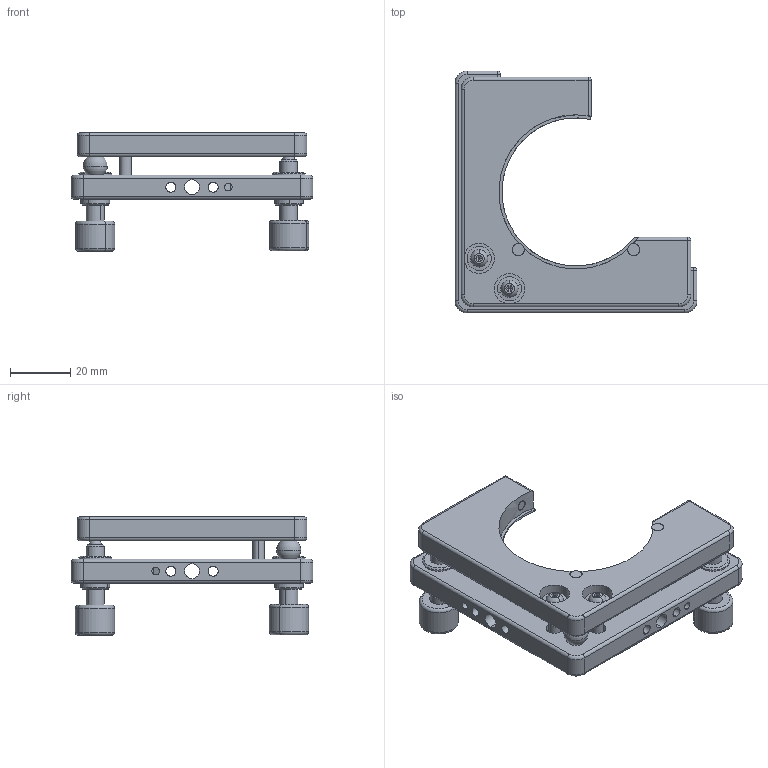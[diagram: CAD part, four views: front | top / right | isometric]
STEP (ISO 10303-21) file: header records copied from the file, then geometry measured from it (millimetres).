
FILE_DESCRIPTION (( 'STEP AP203' ), '1' );
FILE_NAME ('7MM0350謗峎覃誹噩殤.STEP', '2019-10-17T07:06:33', ( '' ), ( '' ), 'SwSTEP 2.0', 'SolidWorks 2014', '' );
FILE_SCHEMA (( 'CONFIG_CONTROL_DESIGN' ));
Length unit declared in the file: millimetre
Products named in the file (1): 7MM0350謗峎覃誹噩殤
Bounding box: 80 x 80 x 39.19 mm (x, y, z)
Surface area: 20216.3 mm2 (no closed solid volume)
Topology: 0 solids, 34 shells, 276 faces, 683 edges, 420 vertices
Faces by surface type: cylinder 109, plane 87, cone 34, torus 24, sphere 22
Entity records: 8441 total; most frequent: CARTESIAN_POINT 1816, DIRECTION 1525, ORIENTED_EDGE 1174, EDGE_CURVE 656, AXIS2_PLACEMENT_3D 620, VERTEX_POINT 411, CIRCLE 343, EDGE_LOOP 318
